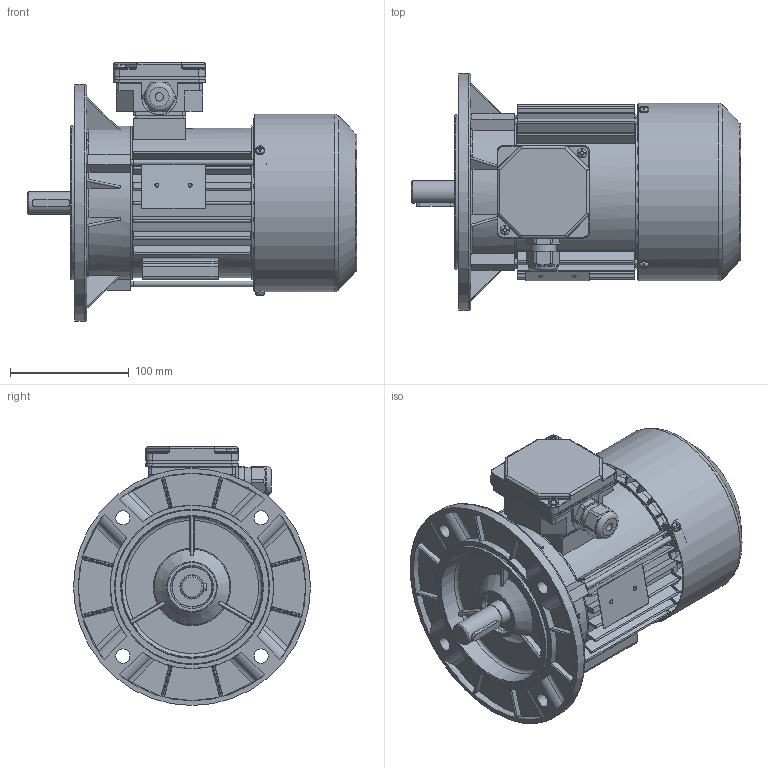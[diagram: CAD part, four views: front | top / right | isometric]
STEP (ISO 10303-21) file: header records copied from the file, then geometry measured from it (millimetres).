
FILE_DESCRIPTION(/* description */ ('Unknown'),/* implementation_level */ '2;1');
FILE_NAME(/* name */ '2SIEK80-6A',/* time_stamp */ '2021-04-12T14:52:11+02:00',/* author */ ('Unknown'),/* organization */ ('Unknown'),/* preprocessor_version */ 'ST-DEVELOPER v16.7',/* originating_system */ 'Solid Edge',/* authorisation */ 'Unknown');
FILE_SCHEMA (('AUTOMOTIVE_DESIGN {1 0 10303 214 3 1 1}'));
Products named in the file (1): 2SIEK80-6A
Bounding box: 277.78 x 200 x 218.5 mm (x, y, z)
Volume: 920081.4 mm3; surface area: 527171.8 mm2
Topology: 3 solids, 3 shells, 2365 faces, 6651 edges, 4345 vertices
Faces by surface type: plane 1177, cylinder 771, torus 180, cone 121, bspline 96, sphere 20
Full cylindrical faces by diameter (mm): 2 x2, 2.4 x2, 3.7 x8, 4 x4, 4.5 x1, 4.6 x3, 4.8 x2, 5 x5, 5.5 x3, 7 x1, 8 x9, 12 x4, 18.998 x1, 19.298 x1, 19.498 x1, 20.298 x2, 20.398 x2, 20.4 x2, 22.3 x1, 25 x1, 25.497 x1, 25.997 x2, 26.097 x1, 26.997 x1, 28.799 x4, 34 x2, 38.198 x4, 42 x2, 47 x3, 83.992 x1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
Entity records: 95699 total; most frequent: CARTESIAN_POINT 21077, ORIENTED_EDGE 12680, DIRECTION 11905, EDGE_CURVE 6340, AXIS2_PLACEMENT_3D 4338, VERTEX_POINT 4232, LINE 3229, VECTOR 3229
